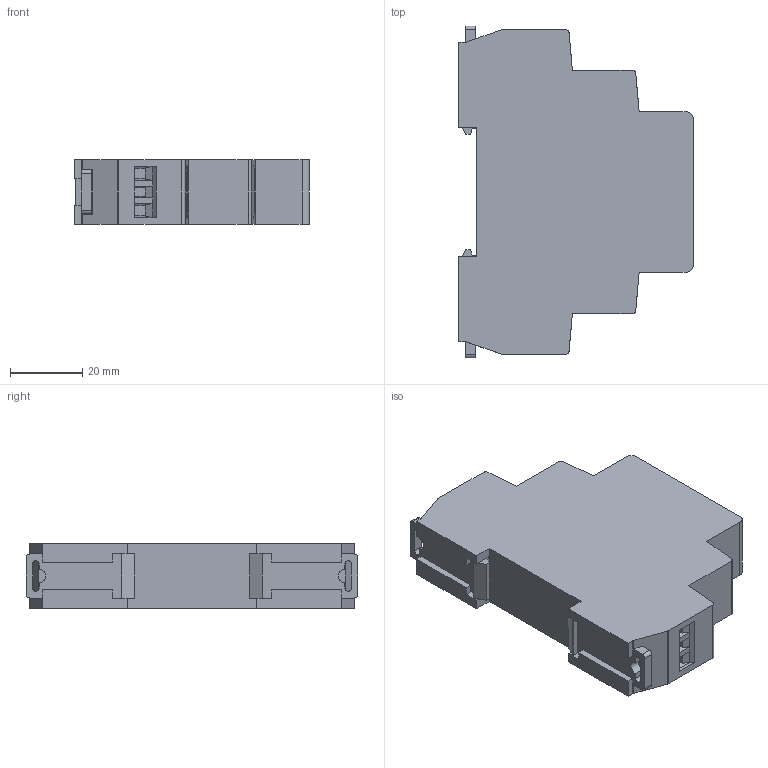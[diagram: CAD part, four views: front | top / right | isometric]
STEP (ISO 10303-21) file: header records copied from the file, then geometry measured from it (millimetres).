
FILE_DESCRIPTION (( 'STEP AP203' ), '1' );
FILE_NAME ('Ðåëå êîíòðîëÿ ôàç RF-3.STEP', '2021-11-25T20:42:04', ( '' ), ( '' ), 'SwSTEP 2.0', 'SolidWorks 2017', '' );
FILE_SCHEMA (( 'CONFIG_CONTROL_DESIGN' ));
Length unit declared in the file: millimetre
Products named in the file (1): Ðåëå êîíòðîëÿ ôàç RF-3
Bounding box: 65 x 92 x 18 mm (x, y, z)
Volume: 79516.1 mm3; surface area: 18350.2 mm2
Topology: 11 solids, 11 shells, 374 faces, 968 edges, 638 vertices
Faces by surface type: plane 274, cylinder 100
Entity records: 11419 total; most frequent: CARTESIAN_POINT 2011, ORIENTED_EDGE 1936, DIRECTION 1898, EDGE_CURVE 968, LINE 768, VECTOR 768, VERTEX_POINT 638, AXIS2_PLACEMENT_3D 565
